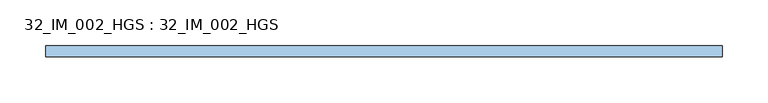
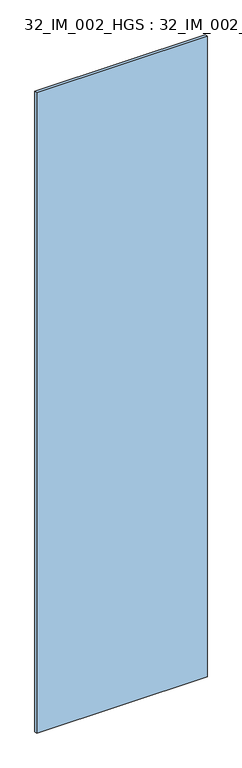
"""IFC4 building model written with IfcOpenShell, lengths in millimetres: window geometry, 32_IM_002_HGS : 32_IM_002_HGS."""

from ifc_helpers import new_model, si_unit, origin, origin_with_axes, place, context, project, spatial, polyline, outline, extrude, source, transform, mapped, element, save


def window_32_im_002_hgs_32_im_002_hgs_8f304ec4(model_context):
    return source(origin(), model_context, "Body", "SweptSolid", [
        extrude(outline(polyline([(371.0, 6.0), (371.0, -6.0), (-371.0, -6.0), (-371.0, 6.0), (371.0, 6.0)])), origin_with_axes(), (0.0, 0.0, 1.0), 2945.0),
    ])


if __name__ == "__main__":
    model = new_model("IFC4")
    model_context = context("Model", 3, world=origin())
    ifc_project = project(units=[si_unit("LENGTHUNIT", "METRE", prefix="MILLI")], contexts=[model_context])
    site = spatial("IfcSite", under=ifc_project)
    building = spatial("IfcBuilding", under=site)
    placement = place(None, origin())
    window_32_im_002_hgs_32_im_002_hgs_shape = window_32_im_002_hgs_32_im_002_hgs_8f304ec4(model_context)
    element("IfcWindow", 1, ObjectType="32_IM_002_HGS : 32_IM_002_HGS", at=placement, inside=building, context=model_context, shape_type="MappedRepresentation", body=[
        mapped(window_32_im_002_hgs_32_im_002_hgs_shape, transform((0.0, 0.0, 0.0), x_axis=(1.0, 0.0, 0.0), y_axis=(0.0, 1.0, 0.0), z_axis=(0.0, 0.0, 1.0))),
    ])
    save(model, "model.ifc")
